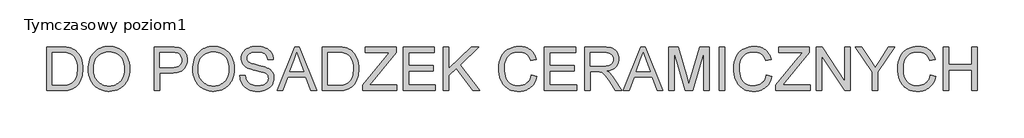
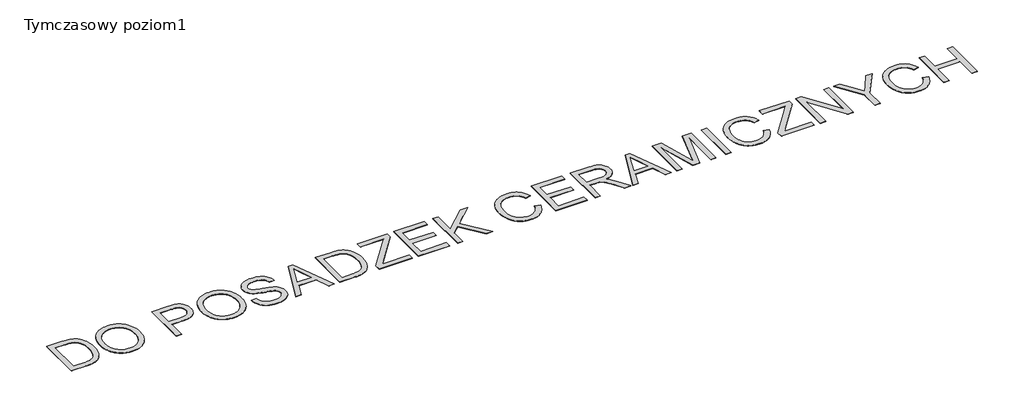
# One storey, part 2 of 4: 1 proxy.
"""IFC4 building model written with IfcOpenShell, lengths in millimetres."""

from ifc_helpers import new_model, si_unit, origin, origin_with_axes, place, context, project, spatial, polyline, outline, extrude, element, save

model = new_model("IFC4")

# Units and contexts
model_context = context("Model", 3, world=origin())
ifc_project = project(units=[si_unit("LENGTHUNIT", "METRE", prefix="MILLI")], contexts=[model_context])

# Site, building, storey
site = spatial("IfcSite", under=ifc_project)
building = spatial("IfcBuilding", under=site)
storey = spatial("IfcBuildingStorey", under=building, Name="Tymczasowy poziom1", Elevation=0.0)

# Proxy
placement = place(None, origin())
element("IfcBuildingElementProxy", 1, Name="1500 mm Arial", ObjectType="1500 mm Arial", at=placement, inside=storey, context=model_context, shape_type="SweptSolid", body=[
    extrude(outline(polyline([(-123057.5631899, 48399.1701422), (-123057.5631899, 49906.0147944), (-122537.7459307, 49906.0147944), (-122382.4077583, 49900.588535), (-122320.3966494, 49893.8057107), (-122268.8241922, 49884.3097567), (-122206.4222088, 49866.398502), (-122148.7107208, 49842.4631797), (-122095.6897283, 49812.5037898), (-122047.3592311, 49776.5203321), (-121991.5101458, 49722.6256198), (-121943.156656, 49661.7411496), (-121902.2987619, 49593.8669215), (-121868.9364635, 49519.0029355), (-121843.0237755, 49437.8389703), (-121824.5147126, 49351.0648047), (-121813.4092748, 49258.6804386), (-121809.7074623, 49160.6858722), (-121812.2136584, 49077.3950892), (-121819.7322466, 48998.95575), (-121832.2632271, 48925.3678547), (-121849.8065997, 48856.6314032), (-121871.2817112, 48793.1832553), (-121895.6079081, 48735.460271), (-121922.7851905, 48683.4624502), (-121952.8135584, 48637.189793), (-121985.003233, 48596.0904764), (-122018.6644355, 48559.6126773), (-122053.7971661, 48527.7563958), (-122090.4014246, 48500.5216318), (-122129.6613313, 48477.1036436), (-122172.7610063, 48456.6976892), (-122219.7004496, 48439.3037686), (-122270.4796612, 48424.9218818), (-122325.1446264, 48413.6554957), (-122383.7413305, 48405.6080771), (-122446.2697734, 48400.7796259), (-122512.729955, 48399.1701422), (-123057.5631899, 48399.1701422)]), holes=[polyline([(-122869.2076084, 48587.5257237), (-122535.9065207, 48587.5257237), (-122462.8129668, 48589.2271779), (-122398.042743, 48594.3315406), (-122341.5958494, 48602.8388117), (-122293.4722859, 48614.7489913), (-122251.7636647, 48629.7631753), (-122214.561598, 48647.5824594), (-122181.8660856, 48668.2068438), (-122153.6771278, 48691.6363283), (-122118.9237755, 48729.4017144), (-122088.2401179, 48773.1681755), (-122061.6261548, 48822.9357117), (-122039.0818863, 48878.7043229), (-122021.1361427, 48940.5889722), (-122008.3177544, 49008.7046229), (-122000.6267214, 49083.0512749), (-121998.0630438, 49163.6289281), (-122003.0869323, 49272.9818512), (-122018.1585978, 49368.9070814), (-122029.4623469, 49411.8343118), (-122043.2780403, 49451.4046189), (-122059.6056779, 49487.6180028), (-122078.4452597, 49520.4744635), (-122120.8091707, 49577.6801137), (-122167.5186878, 49624.5850681), (-122218.573811, 49661.1893266), (-122273.9745402, 49687.4928893), (-122321.8451848, 49700.6906558), (-122382.3157878, 49710.117632), (-122455.386349, 49715.7738176), (-122541.0568687, 49717.6592129), (-122869.2076084, 49717.6592129), (-122869.2076084, 48587.5257237)])]), origin_with_axes(), (0.0, 0.0, 1.0), 10.0),
    extrude(outline(polyline([(-121621.3518807, 49132.7268405), (-121618.2133875, 49223.6339304), (-121608.7979076, 49309.4711466), (-121593.1054413, 49390.238489), (-121571.1359884, 49465.9359577), (-121542.8895489, 49536.5635526), (-121508.366123, 49602.1212738), (-121467.5657104, 49662.6091212), (-121420.4883114, 49718.0270949), (-121368.4502535, 49767.6049419), (-121312.7678647, 49810.5724093), (-121253.4411448, 49846.9294971), (-121190.4700939, 49876.6762053), (-121123.854712, 49899.8125339), (-121053.5949991, 49916.3384829), (-120979.6909551, 49926.2540523), (-120902.1425802, 49929.5592421), (-120850.8172937, 49928.0072399), (-120800.7680979, 49923.3512334), (-120751.9949927, 49915.5912226), (-120704.4979783, 49904.7272074), (-120658.2770545, 49890.7591879), (-120613.3322213, 49873.6871641), (-120569.6634789, 49853.5111359), (-120527.2708271, 49830.2311034), (-120486.7578224, 49804.1747115), (-120448.7280211, 49775.669605), (-120413.1814233, 49744.715784), (-120380.118029, 49711.3132485), (-120349.5378382, 49675.4619984), (-120321.4408508, 49637.1620338), (-120295.8270669, 49596.4133547), (-120272.6964864, 49553.215961), (-120234.3907737, 49461.383418), (-120207.0295503, 49363.5727925), (-120190.6128162, 49259.7840846), (-120185.1405716, 49150.0172943), (-120190.900224, 49038.8019686), (-120208.1791815, 48933.6107106), (-120221.1383996, 48883.274107), (-120236.9774439, 48834.4435203), (-120255.6963145, 48787.1189505), (-120277.2950114, 48741.3003977), (-120301.5349859, 48697.6029144), (-120328.1776898, 48656.6415535), (-120357.223123, 48618.416315), (-120388.6712854, 48582.9271987), (-120422.5221771, 48550.1742049), (-120458.7757981, 48520.1573333), (-120497.4321484, 48492.8765841), (-120538.4912279, 48468.3319572), (-120624.6790816, 48427.7729673), (-120714.2008659, 48398.8022602), (-120807.0565807, 48381.4198359), (-120903.2462261, 48375.6256945), (-120955.5199584, 48377.226556), (-121006.3911405, 48382.0291404), (-121055.8597726, 48390.0334479), (-121103.9258545, 48401.2394784), (-121150.5893863, 48415.6472318), (-121195.8503681, 48433.2567083), (-121239.7087997, 48454.0679077), (-121282.1646812, 48478.0808301), (-121322.6546933, 48504.8614897), (-121360.6155167, 48533.9759008), (-121396.0471513, 48565.4240632), (-121428.9495973, 48599.205977), (-121459.3228545, 48635.3216423), (-121487.166923, 48673.7710589), (-121512.4818028, 48714.554227), (-121535.2674939, 48757.6711465), (-121572.9294131, 48847.5378201), (-121599.830784, 48940.0026603), (-121615.9716066, 49035.0656671), (-121621.3518807, 49132.7268405)]), holes=[polyline([(-121432.9962992, 49130.8874306), (-121430.6424292, 49066.6977706), (-121423.5808194, 49006.0144858), (-121411.8114696, 48948.8375764), (-121395.3343799, 48895.1670422), (-121374.1495504, 48845.0028832), (-121348.2569809, 48798.3450995), (-121317.6566715, 48755.1936911), (-121282.3486222, 48715.548658), (-121243.4882124, 48680.0250528), (-121202.2308214, 48649.2379284), (-121158.5764493, 48623.1872846), (-121112.5250962, 48601.8731215), (-121064.0767618, 48585.2954391), (-121013.2314464, 48573.4542374), (-120959.9891498, 48566.3495163), (-120904.3498721, 48563.981276), (-120847.6931708, 48566.372509), (-120793.6058953, 48573.5462079), (-120742.0880456, 48585.5023727), (-120693.1396217, 48602.2410035), (-120646.7606236, 48623.7621002), (-120602.9510513, 48650.0656629), (-120561.7109048, 48681.1516915), (-120523.0401841, 48717.020186), (-120487.9908019, 48757.28602), (-120457.6146706, 48801.564067), (-120431.9117902, 48849.854327), (-120410.8821609, 48902.1568001), (-120394.5257825, 48958.4714861), (-120382.842655, 49018.7983852), (-120375.8327786, 49083.1374972), (-120373.4961531, 49151.4888223), (-120377.4968698, 49237.6881723), (-120389.4990199, 49318.2313366), (-120409.5026034, 49393.1183152), (-120437.5076203, 49462.3491082), (-120473.2036701, 49525.0155068), (-120516.2803525, 49580.2093024), (-120566.7376674, 49627.930495), (-120624.5756148, 49668.1790845), (-120688.00077, 49700.1273365), (-120755.2197083, 49722.9475165), (-120826.2324297, 49736.6396246), (-120901.0389342, 49741.2036606), (-120954.5370237, 49739.0049908), (-121006.1382217, 49732.4089816), (-121055.8425281, 49721.4156329), (-121103.649943, 49706.0249448), (-121149.5604664, 49686.2369171), (-121193.5740982, 49662.05155), (-121235.6908385, 49633.4688435), (-121275.9106873, 49600.4887974), (-121312.7276276, 49562.3698997), (-121344.6356425, 49518.3706383), (-121371.634732, 49468.4910131), (-121393.7248962, 49412.7310241), (-121410.906135, 49351.0906714), (-121423.1784485, 49283.5699549), (-121430.5418365, 49210.1688746), (-121432.9962992, 49130.8874306)])]), origin_with_axes(), (0.0, 0.0, 1.0), 10.0),
    extrude(outline(polyline([(-119337.5404547, 48399.1701422), (-119337.5404547, 49906.0147944), (-118779.095586, 49906.0147944), (-118649.0493007, 49902.4279449), (-118553.9518049, 49891.6673966), (-118501.5401169, 49880.3665215), (-118453.5660055, 49864.8579962), (-118410.0294706, 49845.1418205), (-118370.9305123, 49821.2179945), (-118335.8552634, 49792.5921768), (-118304.3898565, 49758.7700258), (-118276.5342916, 49719.7515417), (-118252.2885689, 49675.5367244), (-118232.6528674, 49627.5856056), (-118218.6273663, 49577.358217), (-118210.2120657, 49524.8545585), (-118207.4069655, 49470.0746301), (-118209.300983, 49422.8995124), (-118214.9830353, 49377.575301), (-118224.4531226, 49334.1019958), (-118237.7112448, 49292.4795969), (-118254.757402, 49252.7081044), (-118275.591594, 49214.7875181), (-118300.213821, 49178.7178381), (-118328.6240829, 49144.4990644), (-118361.9777591, 49113.2865764), (-118401.430229, 49086.2357534), (-118446.9814926, 49063.3465955), (-118498.6315499, 49044.6191027), (-118556.3804009, 49030.0532749), (-118620.2280456, 49019.6491123), (-118690.1744841, 49013.4066147), (-118766.2197162, 49011.3257821), (-119149.1848731, 49011.3257821), (-119149.1848731, 48399.1701422), (-119337.5404547, 48399.1701422)]), holes=[polyline([(-119149.1848731, 49199.6813637), (-118755.1832563, 49199.6813637), (-118664.592315, 49204.0039771), (-118588.1648305, 49216.9718174), (-118555.2623846, 49226.6976977), (-118525.9008028, 49238.5848846), (-118500.0800853, 49252.6333783), (-118477.8002319, 49268.8431788), (-118441.9087448, 49306.9419579), (-118416.2719683, 49352.0764802), (-118400.8899023, 49404.2467456), (-118395.762547, 49463.4527542), (-118398.7860772, 49507.4146526), (-118407.8566676, 49548.0656131), (-118422.9743184, 49585.4056356), (-118444.1390294, 49619.4347202), (-118470.2241621, 49649.0492208), (-118500.1030779, 49673.1454915), (-118533.7757768, 49691.7235322), (-118571.2422587, 49704.783343), (-118643.8989528, 49714.4402454), (-118759.5978403, 49717.6592129), (-119149.1848731, 49717.6592129), (-119149.1848731, 49199.6813637)])]), origin_with_axes(), (0.0, 0.0, 1.0), 10.0),
    extrude(outline(polyline([(-118019.051384, 49132.7268405), (-118015.9128907, 49223.6339304), (-118006.4974109, 49309.4711466), (-117990.8049445, 49390.238489), (-117968.8354916, 49465.9359577), (-117940.5890522, 49536.5635526), (-117906.0656262, 49602.1212738), (-117865.2652137, 49662.6091212), (-117818.1878146, 49718.0270949), (-117766.1497567, 49767.6049419), (-117710.4673679, 49810.5724093), (-117651.140648, 49846.9294971), (-117588.1695971, 49876.6762053), (-117521.5542152, 49899.8125339), (-117451.2945023, 49916.3384829), (-117377.3904583, 49926.2540523), (-117299.8420834, 49929.5592421), (-117248.5167969, 49928.0072399), (-117198.4676011, 49923.3512334), (-117149.694496, 49915.5912226), (-117102.1974815, 49904.7272074), (-117055.9765577, 49890.7591879), (-117011.0317246, 49873.6871641), (-116967.3629821, 49853.5111359), (-116924.9703303, 49830.2311034), (-116884.4573256, 49804.1747115), (-116846.4275243, 49775.669605), (-116810.8809266, 49744.715784), (-116777.8175322, 49711.3132485), (-116747.2373414, 49675.4619984), (-116719.140354, 49637.1620338), (-116693.5265701, 49596.4133547), (-116670.3959896, 49553.215961), (-116632.0902769, 49461.383418), (-116604.7290535, 49363.5727925), (-116588.3123195, 49259.7840846), (-116582.8400748, 49150.0172943), (-116588.5997273, 49038.8019686), (-116605.8786847, 48933.6107106), (-116618.8379028, 48883.274107), (-116634.6769472, 48834.4435203), (-116653.3958178, 48787.1189505), (-116674.9945146, 48741.3003977), (-116699.2344892, 48697.6029144), (-116725.877193, 48656.6415535), (-116754.9226262, 48618.416315), (-116786.3707886, 48582.9271987), (-116820.2216803, 48550.1742049), (-116856.4753013, 48520.1573333), (-116895.1316516, 48492.8765841), (-116936.1907312, 48468.3319572), (-117022.3785848, 48427.7729673), (-117111.9003691, 48398.8022602), (-117204.7560839, 48381.4198359), (-117300.9457294, 48375.6256945), (-117353.2194616, 48377.226556), (-117404.0906438, 48382.0291404), (-117453.5592758, 48390.0334479), (-117501.6253577, 48401.2394784), (-117548.2888896, 48415.6472318), (-117593.5498713, 48433.2567083), (-117637.4083029, 48454.0679077), (-117679.8641844, 48478.0808301), (-117720.3541965, 48504.8614897), (-117758.3150199, 48533.9759008), (-117793.7466545, 48565.4240632), (-117826.6491005, 48599.205977), (-117857.0223577, 48635.3216423), (-117884.8664262, 48673.7710589), (-117910.181306, 48714.554227), (-117932.9669971, 48757.6711465), (-117970.6289163, 48847.5378201), (-117997.5302872, 48940.0026603), (-118013.6711098, 49035.0656671), (-118019.051384, 49132.7268405)]), holes=[polyline([(-117830.6958024, 49130.8874306), (-117828.3419325, 49066.6977706), (-117821.2803226, 49006.0144858), (-117809.5109728, 48948.8375764), (-117793.0338832, 48895.1670422), (-117771.8490536, 48845.0028832), (-117745.9564841, 48798.3450995), (-117715.3561747, 48755.1936911), (-117680.0481254, 48715.548658), (-117641.1877156, 48680.0250528), (-117599.9303246, 48649.2379284), (-117556.2759526, 48623.1872846), (-117510.2245994, 48601.8731215), (-117461.7762651, 48585.2954391), (-117410.9309496, 48573.4542374), (-117357.6886531, 48566.3495163), (-117302.0493754, 48563.981276), (-117245.392674, 48566.372509), (-117191.3053985, 48573.5462079), (-117139.7875488, 48585.5023727), (-117090.8391249, 48602.2410035), (-117044.4601268, 48623.7621002), (-117000.6505545, 48650.0656629), (-116959.410408, 48681.1516915), (-116920.7396874, 48717.020186), (-116885.6903051, 48757.28602), (-116855.3141738, 48801.564067), (-116829.6112934, 48849.854327), (-116808.5816641, 48902.1568001), (-116792.2252857, 48958.4714861), (-116780.5421583, 49018.7983852), (-116773.5322818, 49083.1374972), (-116771.1956563, 49151.4888223), (-116775.196373, 49237.6881723), (-116787.1985231, 49318.2313366), (-116807.2021066, 49393.1183152), (-116835.2071235, 49462.3491082), (-116870.9031733, 49525.0155068), (-116913.9798557, 49580.2093024), (-116964.4371706, 49627.930495), (-117022.275118, 49668.1790845), (-117085.7002733, 49700.1273365), (-117152.9192116, 49722.9475165), (-117223.9319329, 49736.6396246), (-117298.7384374, 49741.2036606), (-117352.2365269, 49739.0049908), (-117403.8377249, 49732.4089816), (-117453.5420313, 49721.4156329), (-117501.3494462, 49706.0249448), (-117547.2599696, 49686.2369171), (-117591.2736014, 49662.05155), (-117633.3903417, 49633.4688435), (-117673.6101905, 49600.4887974), (-117710.4271308, 49562.3698997), (-117742.3351457, 49518.3706383), (-117769.3342353, 49468.4910131), (-117791.4243994, 49412.7310241), (-117808.6056383, 49351.0906714), (-117820.8779517, 49283.5699549), (-117828.2413397, 49210.1688746), (-117830.6958024, 49130.8874306)])]), origin_with_axes(), (0.0, 0.0, 1.0), 10.0),
    extrude(outline(polyline([(-116394.4844933, 48917.1479914), (-116206.1289117, 48917.1479914), (-116197.5066775, 48862.3220778), (-116184.5158445, 48812.6235195), (-116167.1564129, 48768.0523165), (-116145.4283825, 48728.6084688), (-116118.2281075, 48693.4987309), (-116084.4519418, 48661.9298572), (-116044.0998855, 48633.9018477), (-115997.1719385, 48609.4147024), (-115945.3925476, 48589.5375783), (-115890.4861599, 48575.3396326), (-115832.4527751, 48566.8208651), (-115771.2923934, 48563.981276), (-115717.1907475, 48566.1310864), (-115666.3540543, 48572.5805176), (-115618.7823138, 48583.3295697), (-115574.475526, 48598.3782425), (-115534.5258406, 48617.1862095), (-115500.0254072, 48639.213144), (-115470.9742259, 48664.4590459), (-115447.3722967, 48692.9239153), (-115429.1046564, 48723.3776467), (-115416.0563418, 48754.5901347), (-115408.2273531, 48786.5613794), (-115405.6176902, 48819.2913806), (-115407.5720633, 48851.8834262), (-115413.4351826, 48882.3371576), (-115423.2070481, 48910.6525749), (-115436.8876598, 48936.8296781), (-115456.6153318, 48961.006423), (-115484.5283782, 48983.3207652), (-115520.626799, 49003.7727049), (-115564.9105941, 49022.362242), (-115664.3766886, 49051.9307573), (-115839.1666215, 49094.283172), (-115937.2876474, 49118.3679464), (-116019.1988729, 49141.8779052), (-116084.900298, 49164.8130483), (-116134.3919227, 49187.1733758), (-116184.6882892, 49217.1787511), (-116228.1558462, 49250.5410495), (-116264.7945936, 49287.2602711), (-116294.6045316, 49327.336416), (-116317.7006231, 49370.3556168), (-116334.1978313, 49415.9040063), (-116344.0961562, 49463.9815846), (-116347.3955979, 49514.5883515), (-116343.314407, 49570.6788595), (-116331.0708343, 49624.9069648), (-116310.6648799, 49677.2726676), (-116282.0965437, 49727.7759677), (-116245.6877225, 49774.3590254), (-116201.760313, 49814.9640006), (-116150.3143153, 49849.5908934), (-116091.3497292, 49878.2397038), (-116026.855417, 49900.6920018), (-115958.8202405, 49916.7293575), (-115887.2441998, 49926.3517709), (-115812.1272949, 49929.5592421), (-115730.1815805, 49926.2023189), (-115653.202273, 49916.1315493), (-115581.1893724, 49899.3469332), (-115514.1428788, 49875.8484708), (-115453.3043939, 49845.8430956), (-115399.9155193, 49809.5377412), (-115353.9762552, 49766.9324076), (-115315.4866014, 49718.0270949), (-115284.7454622, 49664.2473457), (-115262.0517416, 49607.0187028), (-115247.4054397, 49546.3411662), (-115240.8065564, 49482.214736), (-115429.1621379, 49482.214736), (-115441.7620963, 49542.3174569), (-115463.7430455, 49594.6026855), (-115495.1049856, 49639.0704216), (-115535.8479165, 49675.7206654), (-115586.730595, 49704.3694758), (-115648.5117775, 49724.8329118), (-115721.1914642, 49737.1109734), (-115804.769655, 49741.2036606), (-115891.0149902, 49737.1569586), (-115964.7063524, 49725.0168528), (-116025.8437415, 49704.783343), (-116051.7046961, 49691.6315617), (-116074.4271575, 49676.4564294), (-116111.4452832, 49642.4043522), (-116137.8868016, 49604.9953518), (-116153.7517127, 49564.2294283), (-116159.0400163, 49520.1065815), (-116155.2922185, 49482.1457581), (-116144.048825, 49447.7257989), (-116125.3098359, 49416.8467039), (-116099.0752511, 49389.5084732), (-116057.7804972, 49363.6187778), (-115992.7573545, 49337.4531709), (-115904.0058232, 49311.0116525), (-115791.5259032, 49284.2942226), (-115677.4364994, 49258.2435788), (-115583.8565169, 49233.8024187), (-115510.7859556, 49210.9707424), (-115458.2248155, 49189.7485498), (-115400.4788386, 49157.5818678), (-115350.8492582, 49121.4144692), (-115309.3360743, 49081.2463538), (-115275.9392869, 49037.0775218), (-115250.2680214, 48989.1378993), (-115231.9314033, 48937.6574126), (-115220.9294323, 48882.6360617), (-115217.2621087, 48824.0738466), (-115221.4812553, 48765.1552458), (-115234.1386952, 48707.9610919), (-115255.2344284, 48652.4913848), (-115284.7684548, 48598.7461245), (-115322.2234404, 48548.8061437), (-115367.0820512, 48504.7522748), (-115419.3442872, 48466.5845178), (-115479.0101483, 48434.3028727), (-115544.3436913, 48408.6316072), (-115613.6089732, 48390.294989), (-115686.805994, 48379.2930181), (-115763.9347535, 48375.6256945), (-115860.2853473, 48379.5804259), (-115948.4735594, 48391.4446203), (-116028.4993896, 48411.2182775), (-116100.3628381, 48438.9013976), (-116164.5007647, 48474.5399659), (-116221.3500293, 48518.1799676), (-116270.9106318, 48569.8214027), (-116313.1825723, 48629.4642711), (-116347.2346495, 48695.1771925), (-116372.1356621, 48765.0287864), (-116387.88561, 48839.0190526), (-116394.4844933, 48917.1479914)])), origin_with_axes(), (0.0, 0.0, 1.0), 10.0),
    extrude(outline(polyline([(-115110.2084481, 48399.1701422), (-114508.721386, 49906.0147944), (-114348.3248361, 49906.0147944), (-113746.837774, 48399.1701422), (-113945.8619334, 48399.1701422), (-114118.3985891, 48870.059096), (-114739.015515, 48870.059096), (-114911.1842887, 48399.1701422), (-115110.2084481, 48399.1701422)]), holes=[polyline([(-114669.8536999, 49058.4146775), (-114187.1925222, 49058.4146775), (-114322.9409784, 49428.8718467), (-114428.523111, 49717.6592129), (-114522.3330198, 49461.2454622), (-114669.8536999, 49058.4146775)])]), origin_with_axes(), (0.0, 0.0, 1.0), 10.0),
    extrude(outline(polyline([(-113545.6063226, 48399.1701422), (-113545.6063226, 49906.0147944), (-113025.7890634, 49906.0147944), (-112870.450891, 49900.588535), (-112808.4397822, 49893.8057107), (-112756.867325, 49884.3097567), (-112694.4653415, 49866.398502), (-112636.7538535, 49842.4631797), (-112583.732861, 49812.5037898), (-112535.4023639, 49776.5203321), (-112479.5532785, 49722.6256198), (-112431.1997887, 49661.7411496), (-112390.3418946, 49593.8669215), (-112356.9795962, 49519.0029355), (-112331.0669082, 49437.8389703), (-112312.5578453, 49351.0648047), (-112301.4524075, 49258.6804386), (-112297.750595, 49160.6858722), (-112300.2567911, 49077.3950892), (-112307.7753793, 48998.95575), (-112320.3063598, 48925.3678547), (-112337.8497324, 48856.6314032), (-112359.3248439, 48793.1832553), (-112383.6510408, 48735.460271), (-112410.8283232, 48683.4624502), (-112440.8566911, 48637.189793), (-112473.0463657, 48596.0904764), (-112506.7075682, 48559.6126773), (-112541.8402988, 48527.7563958), (-112578.4445573, 48500.5216318), (-112617.704464, 48477.1036436), (-112660.804139, 48456.6976892), (-112707.7435823, 48439.3037686), (-112758.5227939, 48424.9218818), (-112813.1877592, 48413.6554957), (-112871.7844632, 48405.6080771), (-112934.3129061, 48400.7796259), (-113000.7730878, 48399.1701422), (-113545.6063226, 48399.1701422)]), holes=[polyline([(-113357.2507411, 48587.5257237), (-113023.9496535, 48587.5257237), (-112950.8560995, 48589.2271779), (-112886.0858758, 48594.3315406), (-112829.6389821, 48602.8388117), (-112781.5154186, 48614.7489913), (-112739.8067974, 48629.7631753), (-112702.6047307, 48647.5824594), (-112669.9092183, 48668.2068438), (-112641.7202605, 48691.6363283), (-112606.9669082, 48729.4017144), (-112576.2832506, 48773.1681755), (-112549.6692875, 48822.9357117), (-112527.125019, 48878.7043229), (-112509.1792754, 48940.5889722), (-112496.3608871, 49008.7046229), (-112488.6698542, 49083.0512749), (-112486.1061765, 49163.6289281), (-112491.130065, 49272.9818512), (-112506.2017305, 49368.9070814), (-112517.5054796, 49411.8343118), (-112531.321173, 49451.4046189), (-112547.6488106, 49487.6180028), (-112566.4883924, 49520.4744635), (-112608.8523035, 49577.6801137), (-112655.5618205, 49624.5850681), (-112706.6169437, 49661.1893266), (-112762.0176729, 49687.4928893), (-112809.8883175, 49700.6906558), (-112870.3589205, 49710.117632), (-112943.4294818, 49715.7738176), (-113029.1000014, 49717.6592129), (-113357.2507411, 49717.6592129), (-113357.2507411, 48587.5257237)])]), origin_with_axes(), (0.0, 0.0, 1.0), 10.0),
    extrude(outline(polyline([(-112156.4839088, 48399.1701422), (-112156.4839088, 48594.5154816), (-111385.7711289, 49538.1327992), (-111239.3540948, 49717.6592129), (-112062.3061181, 49717.6592129), (-112062.3061181, 49906.0147944), (-111002.8059719, 49906.0147944), (-111002.8059719, 49717.6592129), (-111846.3593869, 48685.0144524), (-111925.8218978, 48587.5257237), (-110979.2615243, 48587.5257237), (-110979.2615243, 48399.1701422), (-112156.4839088, 48399.1701422)])), origin_with_axes(), (0.0, 0.0, 1.0), 10.0),
    extrude(outline(polyline([(-110767.361495, 48399.1701422), (-110767.361495, 49906.0147944), (-109684.3169012, 49906.0147944), (-109684.3169012, 49717.6592129), (-110579.0059135, 49717.6592129), (-110579.0059135, 49270.3147067), (-109731.4057966, 49270.3147067), (-109731.4057966, 49081.9591252), (-110579.0059135, 49081.9591252), (-110579.0059135, 48587.5257237), (-109660.7724535, 48587.5257237), (-109660.7724535, 48399.1701422), (-110767.361495, 48399.1701422)])), origin_with_axes(), (0.0, 0.0, 1.0), 10.0),
    extrude(outline(polyline([(-109378.2390812, 48399.1701422), (-109378.2390812, 49906.0147944), (-109189.8834997, 49906.0147944), (-109189.8834997, 49168.4113941), (-108417.3313098, 49906.0147944), (-108153.9278013, 49906.0147944), (-108802.5037588, 49286.5015145), (-108130.3833536, 48399.1701422), (-108360.6774826, 48399.1701422), (-108936.044923, 49159.2143442), (-109189.8834997, 48917.1479914), (-109189.8834997, 48399.1701422), (-109378.2390812, 48399.1701422)])), origin_with_axes(), (0.0, 0.0, 1.0), 10.0),
    extrude(outline(polyline([(-106341.0053291, 48934.8063271), (-106152.6497475, 48886.2459038), (-106169.7390158, 48825.8299083), (-106189.9207922, 48769.1099772), (-106213.1950765, 48716.0861106), (-106239.5618689, 48666.7583084), (-106269.0211693, 48621.1265706), (-106301.5729777, 48579.1908972), (-106337.2172942, 48540.9512883), (-106375.9541186, 48506.4077437), (-106417.3638357, 48475.7557009), (-106461.02683, 48449.1905972), (-106506.9431015, 48426.7124325), (-106555.1126503, 48408.3212068), (-106605.5354762, 48394.0169201), (-106658.2115794, 48383.7995725), (-106713.1409598, 48377.669164), (-106770.3236174, 48375.6256945), (-106829.15887, 48377.1719485), (-106885.1832741, 48381.8107105), (-106938.3968299, 48389.5419806), (-106988.7995373, 48400.3657586), (-107036.3913964, 48414.2820447), (-107081.1724071, 48431.2908389), (-107123.1425694, 48451.392141), (-107162.3018833, 48474.5859512), (-107198.9291344, 48500.711321), (-107233.3031084, 48529.6073021), (-107265.4238051, 48561.2738944), (-107295.2912246, 48595.7110981), (-107322.9053668, 48632.918913), (-107348.2662319, 48672.8973392), (-107371.3738197, 48715.6463767), (-107392.2281303, 48761.1660254), (-107426.7515563, 48856.700381), (-107451.4111463, 48955.6836304), (-107466.2069003, 49058.1157734), (-107471.1388183, 49163.9968101), (-107465.5631068, 49277.6033688), (-107448.8359723, 49383.7143317), (-107436.2906214, 49433.9589649), (-107420.9574148, 49482.3296991), (-107402.8363525, 49528.8265344), (-107381.9274344, 49573.4494708), (-107358.4490905, 49615.822004), (-107332.6197508, 49655.5676299), (-107304.4394151, 49692.6863484), (-107273.9080836, 49727.1781595), (-107241.0257562, 49759.0430632), (-107205.7924329, 49788.2810596), (-107168.2081138, 49814.8921486), (-107128.2727987, 49838.8763303), (-107043.9818366, 49878.5501042), (-106955.552202, 49906.8885141), (-106862.983895, 49923.8915601), (-106766.2769155, 49929.5592421), (-106711.2929276, 49927.7255803), (-106658.5449725, 49922.2245948), (-106608.0330501, 49913.0562857), (-106559.7571605, 49900.220653), (-106513.7173036, 49883.7176966), (-106469.9134794, 49863.5474166), (-106428.3456881, 49839.7098129), (-106389.0139294, 49812.2048856), (-106352.2515966, 49781.3717759), (-106318.3920827, 49747.549625), (-106287.4353876, 49710.7384328), (-106259.3815114, 49670.9381995), (-106234.230454, 49628.1489249), (-106211.9822156, 49582.3706091), (-106192.636796, 49533.6032522), (-106176.1941952, 49481.846854), (-106364.5497768, 49436.9652505), (-106394.2102626, 49511.035991), (-106429.8488309, 49574.3231905), (-106471.4654816, 49626.826849), (-106519.0602147, 49668.5469665), (-106572.9089418, 49700.3342702), (-106633.2875742, 49723.039487), (-106700.1961121, 49736.6626172), (-106773.6345554, 49741.2036606), (-106858.1324512, 49736.1682758), (-106935.4106628, 49721.0621213), (-107005.4691902, 49695.8851973), (-107068.3080335, 49660.6375036), (-107123.1339471, 49616.9055314), (-107169.1536855, 49566.2757719), (-107206.3672485, 49508.7482249), (-107234.7746364, 49444.3228905), (-107255.778399, 49375.919832), (-107270.7810866, 49306.4591128), (-107279.7826992, 49235.9407328), (-107282.7832367, 49164.3646921), (-107279.2308762, 49074.4175443), (-107268.5737947, 48990.3565084), (-107250.8119921, 48912.1815844), (-107225.9454685, 48839.8927724), (-107193.5718529, 48774.9271113), (-107153.2887744, 48718.7216402), (-107105.0962331, 48671.2763591), (-107048.9942288, 48632.5912681), (-106987.7073877, 48602.5743966), (-106923.9603357, 48581.133774), (-106857.7530729, 48568.2694005), (-106789.0855992, 48563.981276), (-106707.1973663, 48569.8214027), (-106668.7105867, 48577.121561), (-106631.8620315, 48587.3417827), (-106596.6517009, 48600.4820677), (-106563.0795947, 48616.5424161), (-106531.1457131, 48635.5228277), (-106500.850056, 48657.4233028), (-106472.5605054, 48682.1978559), (-106446.6449432, 48709.8005018), (-106423.1033696, 48740.2312406), (-106401.9357845, 48773.4900722), (-106383.1421879, 48809.5769967), (-106366.7225798, 48848.492014), (-106341.0053291, 48934.8063271)])), origin_with_axes(), (0.0, 0.0, 1.0), 10.0),
    extrude(outline(polyline([(-105893.6608229, 48399.1701422), (-105893.6608229, 49906.0147944), (-104810.6162291, 49906.0147944), (-104810.6162291, 49717.6592129), (-105705.3052414, 49717.6592129), (-105705.3052414, 49270.3147067), (-104857.7051245, 49270.3147067), (-104857.7051245, 49081.9591252), (-105705.3052414, 49081.9591252), (-105705.3052414, 48587.5257237), (-104787.0717814, 48587.5257237), (-104787.0717814, 48399.1701422), (-105893.6608229, 48399.1701422)])), origin_with_axes(), (0.0, 0.0, 1.0), 10.0),
    extrude(outline(polyline([(-104504.5384091, 48399.1701422), (-104504.5384091, 49906.0147944), (-103855.2266877, 49906.0147944), (-103762.0260834, 49903.4741094), (-103680.7126662, 49895.8520543), (-103611.2864359, 49883.1486291), (-103553.7473926, 49865.3638339), (-103504.7501094, 49841.1296075), (-103460.9491593, 49809.0778887), (-103422.3445425, 49769.2086774), (-103388.9362588, 49721.5219738), (-103361.9774063, 49668.5814554), (-103342.7210831, 49612.9508), (-103331.1672892, 49554.6300074), (-103327.3160246, 49493.6190778), (-103328.9111379, 49454.1292449), (-103333.6964779, 49416.2259031), (-103341.6720446, 49379.9090524), (-103352.837838, 49345.1786928), (-103367.193858, 49312.0348242), (-103384.7401048, 49280.4774469), (-103405.4765782, 49250.5065606), (-103429.4032782, 49222.1221654), (-103456.6639089, 49195.7898619), (-103487.402174, 49171.9752509), (-103521.6180737, 49150.6783323), (-103559.3116078, 49131.899106), (-103600.4827764, 49115.6375722), (-103645.1315795, 49101.8937308), (-103744.8620891, 49081.9591252), (-103682.7820024, 49041.4001352), (-103637.8084285, 49001.3929683), (-103560.64518, 48909.882322), (-103485.1374005, 48807.5191568), (-103233.8739978, 48399.1701422), (-103452.7637849, 48399.1701422), (-103648.8448884, 48711.5019561), (-103727.2957238, 48830.6957225), (-103790.4794565, 48918.2516373), (-103843.1325671, 48978.5382993), (-103867.2863193, 49000.093885), (-103889.9915362, 49015.9243071), (-103934.3673019, 49037.859271), (-103979.570802, 49051.7928016), (-104023.624671, 49056.7592085), (-104088.8317546, 49058.4146775), (-104316.1828276, 49058.4146775), (-104316.1828276, 48399.1701422), (-104504.5384091, 48399.1701422)]), holes=[polyline([(-104316.1828276, 49246.770259), (-103894.5900611, 49246.770259), (-103830.6590682, 49248.4372243), (-103773.5108995, 49253.4381202), (-103723.1455551, 49261.7729467), (-103679.563035, 49273.4417037), (-103641.7861526, 49288.7777844), (-103608.8377214, 49308.1145817), (-103580.7177414, 49331.4520958), (-103557.4262126, 49358.7903266), (-103539.1585722, 49388.7842055), (-103526.1102577, 49420.088664), (-103518.281269, 49452.7037022), (-103515.6716061, 49486.6293199), (-103520.6495094, 49534.7988686), (-103535.5832191, 49578.5078482), (-103560.4727353, 49617.7562586), (-103595.3180581, 49652.5440997), (-103616.6753323, 49667.8054544), (-103640.9239292, 49681.0319617), (-103698.0950905, 49701.3804346), (-103766.831542, 49713.5895183), (-103847.1332838, 49717.6592129), (-104316.1828276, 49717.6592129), (-104316.1828276, 49246.770259)])]), origin_with_axes(), (0.0, 0.0, 1.0), 10.0),
    extrude(outline(polyline([(-103173.1734686, 48399.1701422), (-102571.6864065, 49906.0147944), (-102411.2898566, 49906.0147944), (-101809.8027945, 48399.1701422), (-102008.8269539, 48399.1701422), (-102181.3636096, 48870.059096), (-102801.9805355, 48870.059096), (-102974.1493092, 48399.1701422), (-103173.1734686, 48399.1701422)]), holes=[polyline([(-102732.8187204, 49058.4146775), (-102250.1575427, 49058.4146775), (-102385.9059989, 49428.8718467), (-102491.4881315, 49717.6592129), (-102585.2980403, 49461.2454622), (-102732.8187204, 49058.4146775)])]), origin_with_axes(), (0.0, 0.0, 1.0), 10.0),
    extrude(outline(polyline([(-101608.5713431, 48399.1701422), (-101608.5713431, 49906.0147944), (-101284.4673054, 49906.0147944), (-100976.1821934, 48843.9394743), (-100914.0101362, 48622.1066312), (-100846.6877311, 48862.3335741), (-100543.5529671, 49906.0147944), (-100219.4489293, 49906.0147944), (-100219.4489293, 48399.1701422), (-100407.8045109, 48399.1701422), (-100407.8045109, 49717.6592129), (-100786.3550839, 48399.1701422), (-101041.6651885, 48399.1701422), (-101420.2157616, 49717.6592129), (-101420.2157616, 48399.1701422), (-101608.5713431, 48399.1701422)])), origin_with_axes(), (0.0, 0.0, 1.0), 10.0),
    extrude(outline(polyline([(-99866.282214, 48399.1701422), (-99866.282214, 49906.0147944), (-99677.9266324, 49906.0147944), (-99677.9266324, 48399.1701422), (-99866.282214, 48399.1701422)])), origin_with_axes(), (0.0, 0.0, 1.0), 10.0),
    extrude(outline(polyline([(-98241.7153233, 48934.8063271), (-98053.3597417, 48886.2459038), (-98070.44901, 48825.8299083), (-98090.6307864, 48769.1099772), (-98113.9050707, 48716.0861106), (-98140.2718631, 48666.7583084), (-98169.7311635, 48621.1265706), (-98202.2829719, 48579.1908972), (-98237.9272883, 48540.9512883), (-98276.6641128, 48506.4077437), (-98318.0738299, 48475.7557009), (-98361.7368242, 48449.1905972), (-98407.6530957, 48426.7124325), (-98455.8226444, 48408.3212068), (-98506.2454704, 48394.0169201), (-98558.9215736, 48383.7995725), (-98613.850954, 48377.669164), (-98671.0336116, 48375.6256945), (-98729.8688642, 48377.1719485), (-98785.8932683, 48381.8107105), (-98839.1068241, 48389.5419806), (-98889.5095315, 48400.3657586), (-98937.1013906, 48414.2820447), (-98981.8824012, 48431.2908389), (-99023.8525635, 48451.392141), (-99063.0118775, 48474.5859512), (-99099.6391286, 48500.711321), (-99134.0131026, 48529.6073021), (-99166.1337993, 48561.2738944), (-99196.0012187, 48595.7110981), (-99223.615361, 48632.918913), (-99248.9762261, 48672.8973392), (-99272.0838139, 48715.6463767), (-99292.9381245, 48761.1660254), (-99327.4615505, 48856.700381), (-99352.1211404, 48955.6836304), (-99366.9168944, 49058.1157734), (-99371.8488124, 49163.9968101), (-99366.273101, 49277.6033688), (-99349.5459665, 49383.7143317), (-99337.0006156, 49433.9589649), (-99321.667409, 49482.3296991), (-99303.5463467, 49528.8265344), (-99282.6374286, 49573.4494708), (-99259.1590847, 49615.822004), (-99233.3297449, 49655.5676299), (-99205.1494093, 49692.6863484), (-99174.6180778, 49727.1781595), (-99141.7357504, 49759.0430632), (-99106.5024271, 49788.2810596), (-99068.918108, 49814.8921486), (-99028.9827929, 49838.8763303), (-98944.6918308, 49878.5501042), (-98856.2621962, 49906.8885141), (-98763.6938892, 49923.8915601), (-98666.9869097, 49929.5592421), (-98612.0029218, 49927.7255803), (-98559.2549667, 49922.2245948), (-98508.7430443, 49913.0562857), (-98460.4671546, 49900.220653), (-98414.4272978, 49883.7176966), (-98370.6234736, 49863.5474166), (-98329.0556823, 49839.7098129), (-98289.7239236, 49812.2048856), (-98252.9615908, 49781.3717759), (-98219.1020769, 49747.549625), (-98188.1453818, 49710.7384328), (-98160.0915056, 49670.9381995), (-98134.9404482, 49628.1489249), (-98112.6922098, 49582.3706091), (-98093.3467902, 49533.6032522), (-98076.9041894, 49481.846854), (-98265.2597709, 49436.9652505), (-98294.9202568, 49511.035991), (-98330.5588251, 49574.3231905), (-98372.1754758, 49626.826849), (-98419.7702089, 49668.5469665), (-98473.618936, 49700.3342702), (-98533.9975684, 49723.039487), (-98600.9061063, 49736.6626172), (-98674.3445496, 49741.2036606), (-98758.8424454, 49736.1682758), (-98836.120657, 49721.0621213), (-98906.1791844, 49695.8851973), (-98969.0180277, 49660.6375036), (-99023.8439413, 49616.9055314), (-99069.8636796, 49566.2757719), (-99107.0772427, 49508.7482249), (-99135.4846305, 49444.3228905), (-99156.4883932, 49375.919832), (-99171.4910808, 49306.4591128), (-99180.4926934, 49235.9407328), (-99183.4932309, 49164.3646921), (-99179.9408704, 49074.4175443), (-99169.2837888, 48990.3565084), (-99151.5219863, 48912.1815844), (-99126.6554627, 48839.8927724), (-99094.2818471, 48774.9271113), (-99053.9987686, 48718.7216402), (-99005.8062272, 48671.2763591), (-98949.704223, 48632.5912681), (-98888.4173818, 48602.5743966), (-98824.6703299, 48581.133774), (-98758.463067, 48568.2694005), (-98689.7955934, 48563.981276), (-98607.9073605, 48569.8214027), (-98569.4205809, 48577.121561), (-98532.5720257, 48587.3417827), (-98497.361695, 48600.4820677), (-98463.7895889, 48616.5424161), (-98431.8557073, 48635.5228277), (-98401.5600502, 48657.4233028), (-98373.2704995, 48682.1978559), (-98347.3549374, 48709.8005018), (-98323.8133638, 48740.2312406), (-98302.6457787, 48773.4900722), (-98283.8521821, 48809.5769967), (-98267.432574, 48848.492014), (-98241.7153233, 48934.8063271)])), origin_with_axes(), (0.0, 0.0, 1.0), 10.0),
    extrude(outline(polyline([(-97912.0930556, 48399.1701422), (-97912.0930556, 48594.5154816), (-97141.3802757, 49538.1327992), (-96994.9632416, 49717.6592129), (-97817.9152648, 49717.6592129), (-97817.9152648, 49906.0147944), (-96758.4151187, 49906.0147944), (-96758.4151187, 49717.6592129), (-97601.9685336, 48685.0144524), (-97681.4310446, 48587.5257237), (-96734.870671, 48587.5257237), (-96734.870671, 48399.1701422), (-97912.0930556, 48399.1701422)])), origin_with_axes(), (0.0, 0.0, 1.0), 10.0),
    extrude(outline(polyline([(-96522.9706418, 48399.1701422), (-96522.9706418, 49906.0147944), (-96321.3713084, 49906.0147944), (-95534.1038388, 48712.2377201), (-95534.1038388, 49906.0147944), (-95345.7482572, 49906.0147944), (-95345.7482572, 48399.1701422), (-95547.3475906, 48399.1701422), (-96334.6150603, 49593.3150985), (-96334.6150603, 48399.1701422), (-96522.9706418, 48399.1701422)])), origin_with_axes(), (0.0, 0.0, 1.0), 10.0),
    extrude(outline(polyline([(-94592.3259311, 48399.1701422), (-94592.3259311, 49037.4454038), (-95180.9371234, 49906.0147944), (-94958.7363983, 49906.0147944), (-94644.5651744, 49442.1155985), (-94483.8007425, 49205.5674756), (-94322.6684286, 49459.0381703), (-94037.5598824, 49906.0147944), (-93815.3591573, 49906.0147944), (-94403.9703496, 49037.4454038), (-94403.9703496, 48399.1701422), (-94592.3259311, 48399.1701422)])), origin_with_axes(), (0.0, 0.0, 1.0), 10.0),
    extrude(outline(polyline([(-92591.0478773, 48934.8063271), (-92402.6922958, 48886.2459038), (-92419.7815641, 48825.8299083), (-92439.9633404, 48769.1099772), (-92463.2376248, 48716.0861106), (-92489.6044172, 48666.7583084), (-92519.0637176, 48621.1265706), (-92551.615526, 48579.1908972), (-92587.2598424, 48540.9512883), (-92625.9966669, 48506.4077437), (-92667.406384, 48475.7557009), (-92711.0693783, 48449.1905972), (-92756.9856498, 48426.7124325), (-92805.1551985, 48408.3212068), (-92855.5780245, 48394.0169201), (-92908.2541277, 48383.7995725), (-92963.1835081, 48377.669164), (-93020.3661657, 48375.6256945), (-93079.2014182, 48377.1719485), (-93135.2258224, 48381.8107105), (-93188.4393782, 48389.5419806), (-93238.8420856, 48400.3657586), (-93286.4339446, 48414.2820447), (-93331.2149553, 48431.2908389), (-93373.1851176, 48451.392141), (-93412.3444316, 48474.5859512), (-93448.9716827, 48500.711321), (-93483.3456566, 48529.6073021), (-93515.4663533, 48561.2738944), (-93545.3337728, 48595.7110981), (-93572.9479151, 48632.918913), (-93598.3087801, 48672.8973392), (-93621.416368, 48715.6463767), (-93642.2706786, 48761.1660254), (-93676.7941045, 48856.700381), (-93701.4536945, 48955.6836304), (-93716.2494485, 49058.1157734), (-93721.1813665, 49163.9968101), (-93715.605655, 49277.6033688), (-93698.8785206, 49383.7143317), (-93686.3331697, 49433.9589649), (-93670.9999631, 49482.3296991), (-93652.8789008, 49528.8265344), (-93631.9699827, 49573.4494708), (-93608.4916388, 49615.822004), (-93582.662299, 49655.5676299), (-93554.4819634, 49692.6863484), (-93523.9506319, 49727.1781595), (-93491.0683045, 49759.0430632), (-93455.8349812, 49788.2810596), (-93418.250662, 49814.8921486), (-93378.315347, 49838.8763303), (-93294.0243849, 49878.5501042), (-93205.5947503, 49906.8885141), (-93113.0264432, 49923.8915601), (-93016.3194638, 49929.5592421), (-92961.3354759, 49927.7255803), (-92908.5875207, 49922.2245948), (-92858.0755984, 49913.0562857), (-92809.7997087, 49900.220653), (-92763.7598518, 49883.7176966), (-92719.9560277, 49863.5474166), (-92678.3882363, 49839.7098129), (-92639.0564777, 49812.2048856), (-92602.2941449, 49781.3717759), (-92568.434631, 49747.549625), (-92537.4779359, 49710.7384328), (-92509.4240597, 49670.9381995), (-92484.2730023, 49628.1489249), (-92462.0247638, 49582.3706091), (-92442.6793442, 49533.6032522), (-92426.2367435, 49481.846854), (-92614.592325, 49436.9652505), (-92644.2528109, 49511.035991), (-92679.8913792, 49574.3231905), (-92721.5080299, 49626.826849), (-92769.102763, 49668.5469665), (-92822.9514901, 49700.3342702), (-92883.3301225, 49723.039487), (-92950.2386604, 49736.6626172), (-93023.6771037, 49741.2036606), (-93108.1749994, 49736.1682758), (-93185.453211, 49721.0621213), (-93255.5117385, 49695.8851973), (-93318.3505818, 49660.6375036), (-93373.1764954, 49616.9055314), (-93419.1962337, 49566.2757719), (-93456.4097968, 49508.7482249), (-93484.8171846, 49444.3228905), (-93505.8209473, 49375.919832), (-93520.8236349, 49306.4591128), (-93529.8252475, 49235.9407328), (-93532.825785, 49164.3646921), (-93529.2734245, 49074.4175443), (-93518.6163429, 48990.3565084), (-93500.8545404, 48912.1815844), (-93475.9880167, 48839.8927724), (-93443.6144012, 48774.9271113), (-93403.3313227, 48718.7216402), (-93355.1387813, 48671.2763591), (-93299.0367771, 48632.5912681), (-93237.7499359, 48602.5743966), (-93174.0028839, 48581.133774), (-93107.7956211, 48568.2694005), (-93039.1281475, 48563.981276), (-92957.2399146, 48569.8214027), (-92918.7531349, 48577.121561), (-92881.9045798, 48587.3417827), (-92846.6942491, 48600.4820677), (-92813.122143, 48616.5424161), (-92781.1882614, 48635.5228277), (-92750.8926042, 48657.4233028), (-92722.6030536, 48682.1978559), (-92696.6874915, 48709.8005018), (-92673.1459179, 48740.2312406), (-92651.9783328, 48773.4900722), (-92633.1847362, 48809.5769967), (-92616.7651281, 48848.492014), (-92591.0478773, 48934.8063271)])), origin_with_axes(), (0.0, 0.0, 1.0), 10.0),
    extrude(outline(polyline([(-92143.7033712, 48399.1701422), (-92143.7033712, 49906.0147944), (-91955.3477897, 49906.0147944), (-91955.3477897, 49293.8591544), (-91154.8365682, 49293.8591544), (-91154.8365682, 49906.0147944), (-90966.4809866, 49906.0147944), (-90966.4809866, 48399.1701422), (-91154.8365682, 48399.1701422), (-91154.8365682, 49105.5035729), (-91955.3477897, 49105.5035729), (-91955.3477897, 48399.1701422), (-92143.7033712, 48399.1701422)])), origin_with_axes(), (0.0, 0.0, 1.0), 10.0),
])

save(model, "model.ifc")
